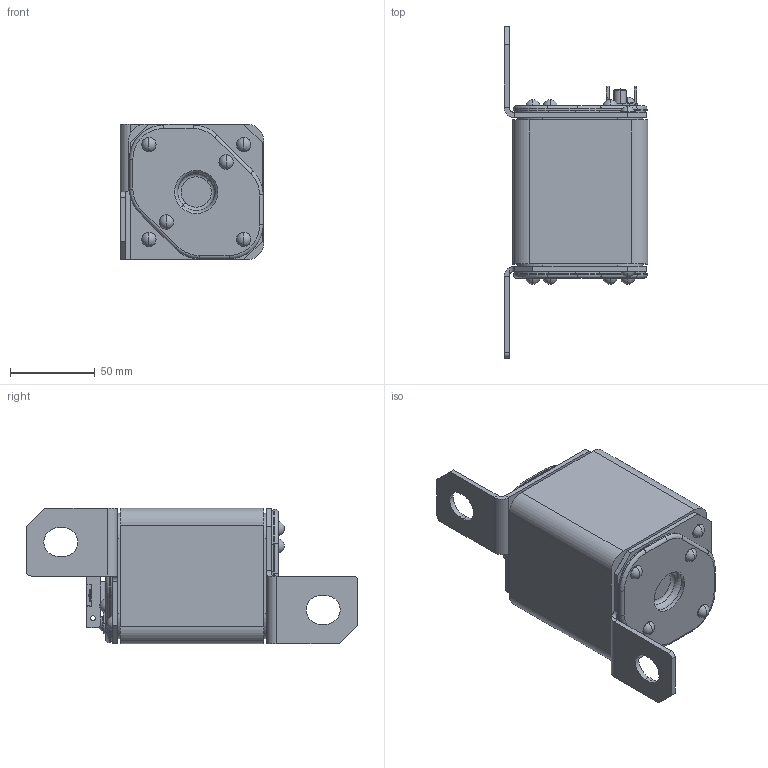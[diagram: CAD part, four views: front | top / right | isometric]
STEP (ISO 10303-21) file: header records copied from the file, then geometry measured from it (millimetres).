
FILE_DESCRIPTION (( 'STEP AP214' ), '1' );
FILE_NAME ('砎槼隰譇膻蠈錪 珫57-39972-XXXA-XXXX-忡曖.STEP', '2023-05-16T10:13:14', ( '' ), ( '' ), 'SwSTEP 2.0', 'SolidWorks 2018', '' );
FILE_SCHEMA (( 'AUTOMOTIVE_DESIGN' ));
Length unit declared in the file: millimetre
Products named in the file (1): 砎槼隰譇膻蠈錪 珫57-39972-XXXA-XXXX-忡曖
Bounding box: 85 x 196 x 80 mm (x, y, z)
Volume: 625012.9 mm3; surface area: 69627.3 mm2
Topology: 1 solids, 19 shells, 685 faces, 1697 edges, 1048 vertices
Faces by surface type: plane 303, cylinder 258, torus 62, cone 38, sphere 24
Entity records: 21057 total; most frequent: CARTESIAN_POINT 4425, DIRECTION 3687, ORIENTED_EDGE 3322, EDGE_CURVE 1661, AXIS2_PLACEMENT_3D 1415, VERTEX_POINT 1036, VECTOR 857, LINE 857
